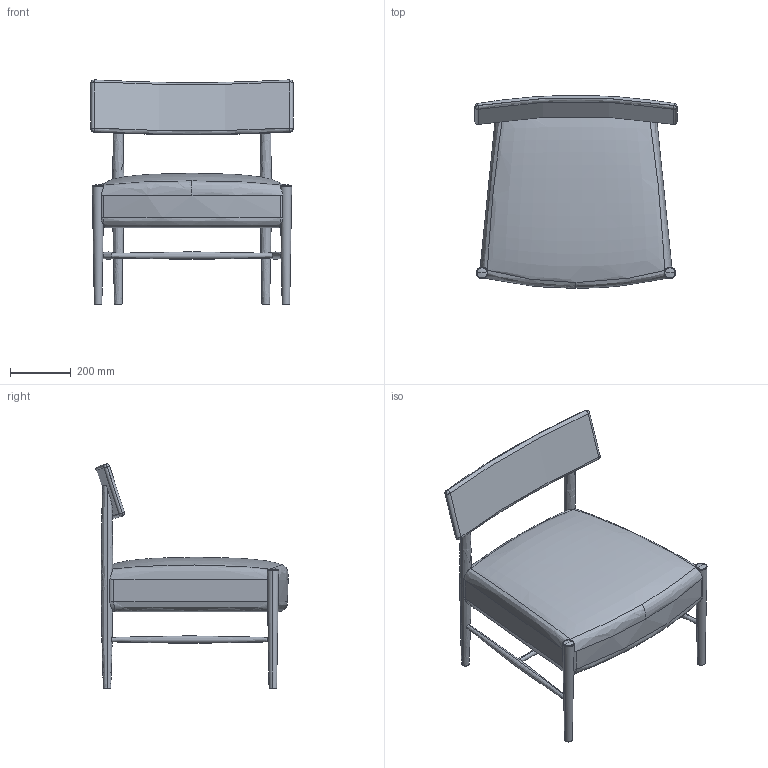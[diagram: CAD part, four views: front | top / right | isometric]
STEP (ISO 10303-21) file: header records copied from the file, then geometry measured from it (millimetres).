
FILE_DESCRIPTION(/* description */ (''),/* implementation_level */ '2;1');
FILE_NAME(/* name */ 'KINOSH~1',/* time_stamp */ '2020-05-30T18:02:55+09:00',/* author */ (''),/* organization */ (''),/* preprocessor_version */ 'ST-DEVELOPER v15',/* originating_system */ '',/* authorisation */ '');
FILE_SCHEMA (('AUTOMOTIVE_DESIGN'));
Length unit declared in the file: millimetre
Products named in the file (1): Document
Bounding box: 666.82 x 635.19 x 740 mm (x, y, z)
Volume: 60454510.4 mm3; surface area: 1568986.3 mm2
Topology: 9 solids, 9 shells, 90 faces, 190 edges, 114 vertices
Faces by surface type: bspline 81, plane 9
Entity records: 11893 total; most frequent: CARTESIAN_POINT 10737, ORIENTED_EDGE 372, EDGE_CURVE 186, B_SPLINE_CURVE_WITH_KNOTS 115, VERTEX_POINT 114, ADVANCED_FACE 90, FACE_OUTER_BOUND 90, EDGE_LOOP 90
